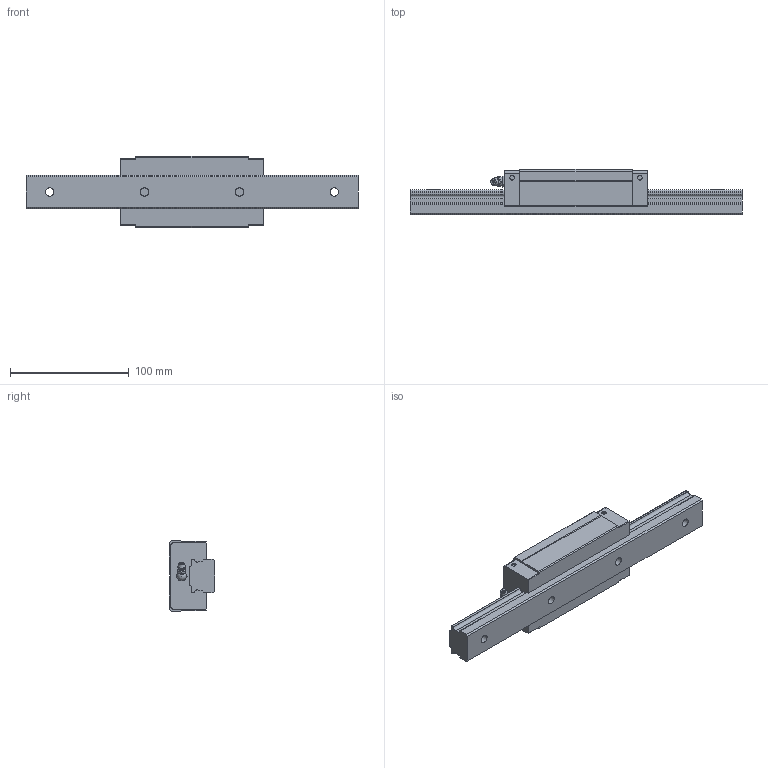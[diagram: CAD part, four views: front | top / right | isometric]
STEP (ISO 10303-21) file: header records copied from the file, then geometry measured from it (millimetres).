
FILE_DESCRIPTION(/* description */ ('STEP AP203'),/* implementation_level */ '2;1');
FILE_NAME(/* name */ 'SVS30LR1SS-280L_G20_0_B-M6F_79-75_0_0_0_1',/* time_stamp */ '2024-05-16T11:57:06+02:00',/* author */ ('License CC BY-ND 4.0'),/* organization */ ('CADENAS'),/* preprocessor_version */ 'ST-DEVELOPER v19.3',/* originating_system */ 'PARTsolutions',/* authorisation */ ' ');
FILE_SCHEMA (('CONFIG_CONTROL_DESIGN','AUTOMOTIVE_DESIGN { 1 0 10303 214 3 1 1 }','FEATURE_BASED_PROCESS_PLANNING','MODEL_BASED_INTEGRATED_MANUFACTURING_SCHEMA'));
Length unit declared in the file: millimetre
Products named in the file (4): SVS30LR1SS-280L_G20_0_B-M6F_79-75_0_0_0_1; SVR 30LR28020 R Track; SVR 30LR1SSB-M6F1 Slide; B-M6F_grease_nipple_joint1_SVR
Assembly tree (3 placements, depth 2):
  SVS30LR1SS-280L_G20_0_B-M6F_79-75_0_0_0_1
    SVR 30LR28020 R Track
    SVR 30LR1SSB-M6F1 Slide
    B-M6F_grease_nipple_joint1_SVR
Bounding box: 280 x 38 x 60 mm (x, y, z)
Volume: 317970.3 mm3; surface area: 61200.9 mm2
Topology: 3 solids, 3 shells, 180 faces, 476 edges, 311 vertices
Faces by surface type: plane 92, cylinder 58, cone 25, sphere 3, torus 2
Full cylindrical faces by diameter (mm): 3.9 x4, 4.917 x2, 6 x1, 6.647 x6, 7 x4, 8 x1, 11 x4
Entity records: 5345 total; most frequent: CARTESIAN_POINT 989, DIRECTION 896, ORIENTED_EDGE 816, EDGE_CURVE 408, AXIS2_PLACEMENT_3D 328, VERTEX_POINT 297, FACE_BOUND 251, EDGE_LOOP 243
